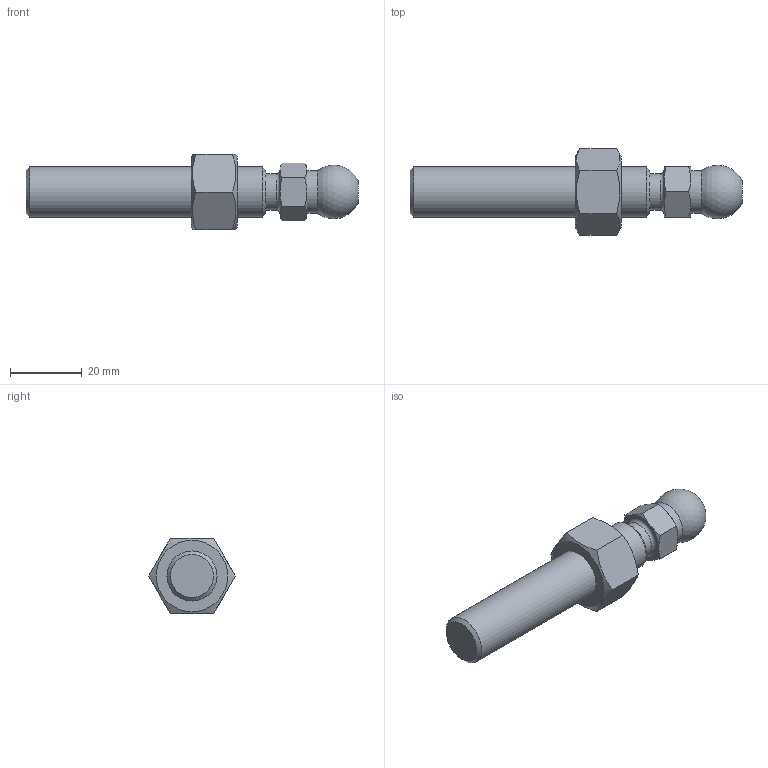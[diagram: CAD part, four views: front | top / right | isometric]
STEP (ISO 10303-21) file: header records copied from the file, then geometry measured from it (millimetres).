
FILE_DESCRIPTION(('STEP AP203'), '1');
FILE_NAME('A00020.114066', '', ('UNSPECIFIED'), ('UNSPECIFIED'), 'C3D Converter', 'C3D Toolkit', '');
FILE_SCHEMA(('CONFIG_CONTROL_DESIGN'));
Length unit declared in the file: millimetre
Products named in the file (2): A00020.114066
Assembly tree (1 placements, depth 2):
  A00020.114066
    (unnamed)
Bounding box: 92.8 x 24.25 x 21 mm (x, y, z)
Volume: 17166.8 mm3; surface area: 6240.6 mm2
Topology: 2 solids, 2 shells, 43 faces, 88 edges, 52 vertices
Faces by surface type: plane 19, cone 18, cylinder 4, torus 1, sphere 1
Full cylindrical faces by diameter (mm): 10.2 x1, 11.835 x1, 12 x1, 14 x1
Entity records: 2211 total; most frequent: CARTESIAN_POINT 1309, DIRECTION 158, ORIENTED_EDGE 152, EDGE_CURVE 76, AXIS2_PLACEMENT_3D 73, EDGE_LOOP 60, VERTEX_POINT 52, ADVANCED_FACE 43
